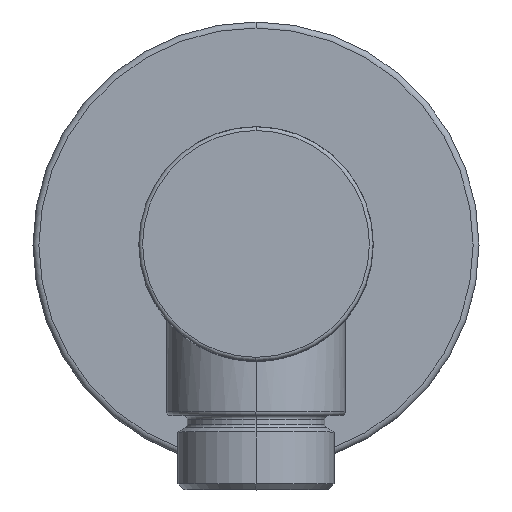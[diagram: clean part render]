
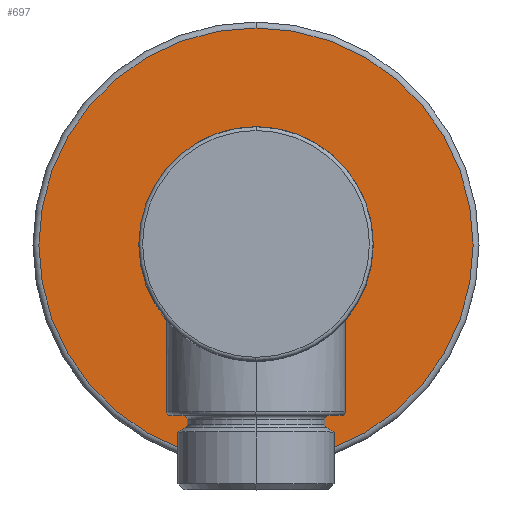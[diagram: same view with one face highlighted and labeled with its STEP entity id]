
A CAD part, top view. The second image highlights one B-rep face of the part: STEP entity #697.
In plain terms, the highlighted planar face has unit normal (0, 0, 1).
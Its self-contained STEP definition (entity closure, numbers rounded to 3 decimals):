
#24=CARTESIAN_POINT('',(0.,0.,7.));
#25=DIRECTION('',(0.,0.,1.));
#26=DIRECTION('',(0.,1.,0.));
#27=AXIS2_PLACEMENT_3D('',#24,#25,#26);
#29=CARTESIAN_POINT('',(0.,0.,7.));
#30=DIRECTION('',(0.,0.,1.));
#31=DIRECTION('',(0.,-1.,0.));
#32=AXIS2_PLACEMENT_3D('',#29,#30,#31);
#78=CARTESIAN_POINT('',(0.,0.,7.));
#79=DIRECTION('',(0.,0.,1.));
#80=DIRECTION('',(0.,1.,0.));
#81=AXIS2_PLACEMENT_3D('',#78,#79,#80);
#134=CARTESIAN_POINT('',(0.,0.,7.));
#135=DIRECTION('',(0.,0.,-1.));
#136=DIRECTION('',(0.,1.,0.));
#137=AXIS2_PLACEMENT_3D('',#134,#135,#136);
#553=CARTESIAN_POINT('',(0.,15.75,7.));
#554=CARTESIAN_POINT('',(0.,-15.75,7.));
#555=VERTEX_POINT('',#553);
#556=VERTEX_POINT('',#554);
#631=CARTESIAN_POINT('',(0.,29.2,7.));
#632=CARTESIAN_POINT('',(0.,-29.2,7.));
#633=VERTEX_POINT('',#631);
#634=VERTEX_POINT('',#632);
#681=CARTESIAN_POINT('',(0.,0.,7.));
#682=DIRECTION('',(0.,0.,1.));
#683=DIRECTION('',(0.,1.,0.));
#684=AXIS2_PLACEMENT_3D('',#681,#682,#683);
#685=PLANE('',#684);
#687=ORIENTED_EDGE('',*,*,#686,.F.);
#688=ORIENTED_EDGE('',*,*,#671,.F.);
#689=EDGE_LOOP('',(#687,#688));
#690=FACE_OUTER_BOUND('',#689,.F.);
#692=ORIENTED_EDGE('',*,*,#691,.T.);
#694=ORIENTED_EDGE('',*,*,#693,.F.);
#695=EDGE_LOOP('',(#692,#694));
#696=FACE_BOUND('',#695,.F.);
#697=ADVANCED_FACE('',(#690,#696),#685,.T.);
#28=CIRCLE('',#27,29.2);
#33=CIRCLE('',#32,29.2);
#82=CIRCLE('',#81,15.75);
#138=CIRCLE('',#137,15.75);
#671=EDGE_CURVE('',#634,#633,#33,.T.);
#686=EDGE_CURVE('',#633,#634,#28,.T.);
#691=EDGE_CURVE('',#555,#556,#82,.T.);
#693=EDGE_CURVE('',#555,#556,#138,.T.);
